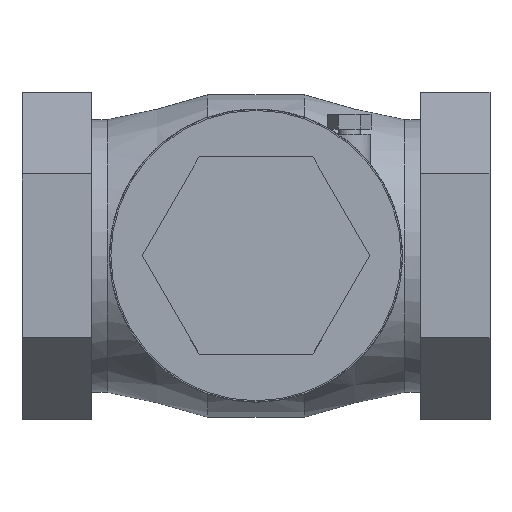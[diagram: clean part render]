
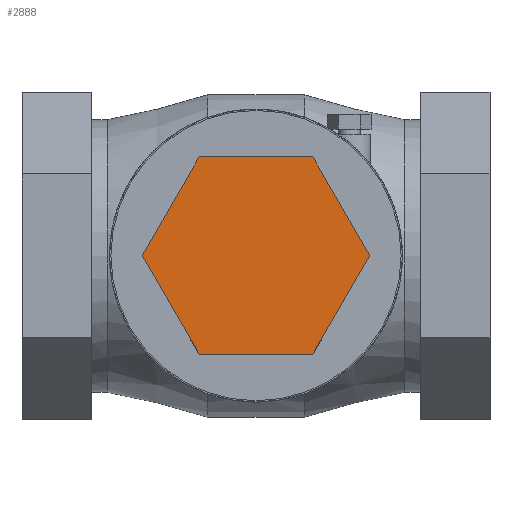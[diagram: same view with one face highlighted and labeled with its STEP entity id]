
A CAD part, top view. The second image highlights one B-rep face of the part: STEP entity #2888.
In plain terms, the highlighted planar face has unit normal (0, 0, 1).
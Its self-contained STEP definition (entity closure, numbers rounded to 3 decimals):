
#2437 = PLANE('',#2438);
#2438 = AXIS2_PLACEMENT_3D('',#2439,#2440,#2441);
#2439 = CARTESIAN_POINT('',(2.66,-1.12,2.889));
#2440 = DIRECTION('',(0.,-1.,0.));
#2441 = DIRECTION('',(1.,0.,0.));
#2465 = PLANE('',#2466);
#2466 = AXIS2_PLACEMENT_3D('',#2467,#2468,#2469);
#2467 = CARTESIAN_POINT('',(1.69,-0.56,2.889));
#2468 = DIRECTION('',(-0.866,-0.5,0.));
#2469 = DIRECTION('',(0.5,-0.866,0.));
#2493 = PLANE('',#2494);
#2494 = AXIS2_PLACEMENT_3D('',#2495,#2496,#2497);
#2495 = CARTESIAN_POINT('',(1.69,0.56,2.889));
#2496 = DIRECTION('',(-0.866,0.5,0.));
#2497 = DIRECTION('',(-0.5,-0.866,0.));
#2521 = PLANE('',#2522);
#2522 = AXIS2_PLACEMENT_3D('',#2523,#2524,#2525);
#2523 = CARTESIAN_POINT('',(2.66,1.12,2.889));
#2524 = DIRECTION('',(0.,1.,0.));
#2525 = DIRECTION('',(-1.,0.,0.));
#2549 = PLANE('',#2550);
#2550 = AXIS2_PLACEMENT_3D('',#2551,#2552,#2553);
#2551 = CARTESIAN_POINT('',(3.63,0.56,2.889));
#2552 = DIRECTION('',(0.866,0.5,0.));
#2553 = DIRECTION('',(-0.5,0.866,0.));
#2575 = PLANE('',#2576);
#2576 = AXIS2_PLACEMENT_3D('',#2577,#2578,#2579);
#2577 = CARTESIAN_POINT('',(3.63,-0.56,2.889));
#2578 = DIRECTION('',(0.866,-0.5,0.));
#2579 = DIRECTION('',(0.5,0.866,0.));
#2593 = EDGE_CURVE('',#2594,#2596,#2598,.T.);
#2594 = VERTEX_POINT('',#2595);
#2595 = CARTESIAN_POINT('',(3.307,-1.12,3.35));
#2596 = VERTEX_POINT('',#2597);
#2597 = CARTESIAN_POINT('',(2.013,-1.12,3.35));
#2598 = SURFACE_CURVE('',#2599,(#2603,#2610),.PCURVE_S1.);
#2599 = LINE('',#2600,#2601);
#2600 = CARTESIAN_POINT('',(2.013,-1.12,3.35));
#2601 = VECTOR('',#2602,1.);
#2602 = DIRECTION('',(-1.,0.,0.));
#2603 = PCURVE('',#2437,#2604);
#2604 = DEFINITIONAL_REPRESENTATION('',(#2605),#2609);
#2605 = LINE('',#2606,#2607);
#2606 = CARTESIAN_POINT('',(-0.647,0.461));
#2607 = VECTOR('',#2608,1.);
#2608 = DIRECTION('',(-1.,0.));
#2609 = ( GEOMETRIC_REPRESENTATION_CONTEXT(2) 
PARAMETRIC_REPRESENTATION_CONTEXT() REPRESENTATION_CONTEXT('2D SPACE',''
  ) );
#2610 = PCURVE('',#2611,#2616);
#2611 = PLANE('',#2612);
#2612 = AXIS2_PLACEMENT_3D('',#2613,#2614,#2615);
#2613 = CARTESIAN_POINT('',(2.66,0.,3.35));
#2614 = DIRECTION('',(0.,0.,1.));
#2615 = DIRECTION('',(1.,0.,-0.));
#2616 = DEFINITIONAL_REPRESENTATION('',(#2617),#2621);
#2617 = LINE('',#2618,#2619);
#2618 = CARTESIAN_POINT('',(-0.647,-1.12));
#2619 = VECTOR('',#2620,1.);
#2620 = DIRECTION('',(-1.,0.));
#2621 = ( GEOMETRIC_REPRESENTATION_CONTEXT(2) 
PARAMETRIC_REPRESENTATION_CONTEXT() REPRESENTATION_CONTEXT('2D SPACE',''
  ) );
#2669 = EDGE_CURVE('',#2596,#2670,#2672,.T.);
#2670 = VERTEX_POINT('',#2671);
#2671 = CARTESIAN_POINT('',(1.367,0.,3.35));
#2672 = SURFACE_CURVE('',#2673,(#2677,#2684),.PCURVE_S1.);
#2673 = LINE('',#2674,#2675);
#2674 = CARTESIAN_POINT('',(1.367,0.,3.35));
#2675 = VECTOR('',#2676,1.);
#2676 = DIRECTION('',(-0.5,0.866,0.));
#2677 = PCURVE('',#2465,#2678);
#2678 = DEFINITIONAL_REPRESENTATION('',(#2679),#2683);
#2679 = LINE('',#2680,#2681);
#2680 = CARTESIAN_POINT('',(-0.647,0.461));
#2681 = VECTOR('',#2682,1.);
#2682 = DIRECTION('',(-1.,0.));
#2683 = ( GEOMETRIC_REPRESENTATION_CONTEXT(2) 
PARAMETRIC_REPRESENTATION_CONTEXT() REPRESENTATION_CONTEXT('2D SPACE',''
  ) );
#2684 = PCURVE('',#2611,#2685);
#2685 = DEFINITIONAL_REPRESENTATION('',(#2686),#2690);
#2686 = LINE('',#2687,#2688);
#2687 = CARTESIAN_POINT('',(-1.293,0.));
#2688 = VECTOR('',#2689,1.);
#2689 = DIRECTION('',(-0.5,0.866));
#2690 = ( GEOMETRIC_REPRESENTATION_CONTEXT(2) 
PARAMETRIC_REPRESENTATION_CONTEXT() REPRESENTATION_CONTEXT('2D SPACE',''
  ) );
#2718 = EDGE_CURVE('',#2670,#2719,#2721,.T.);
#2719 = VERTEX_POINT('',#2720);
#2720 = CARTESIAN_POINT('',(2.013,1.12,3.35));
#2721 = SURFACE_CURVE('',#2722,(#2726,#2733),.PCURVE_S1.);
#2722 = LINE('',#2723,#2724);
#2723 = CARTESIAN_POINT('',(2.013,1.12,3.35));
#2724 = VECTOR('',#2725,1.);
#2725 = DIRECTION('',(0.5,0.866,0.));
#2726 = PCURVE('',#2493,#2727);
#2727 = DEFINITIONAL_REPRESENTATION('',(#2728),#2732);
#2728 = LINE('',#2729,#2730);
#2729 = CARTESIAN_POINT('',(-0.647,0.461));
#2730 = VECTOR('',#2731,1.);
#2731 = DIRECTION('',(-1.,0.));
#2732 = ( GEOMETRIC_REPRESENTATION_CONTEXT(2) 
PARAMETRIC_REPRESENTATION_CONTEXT() REPRESENTATION_CONTEXT('2D SPACE',''
  ) );
#2733 = PCURVE('',#2611,#2734);
#2734 = DEFINITIONAL_REPRESENTATION('',(#2735),#2739);
#2735 = LINE('',#2736,#2737);
#2736 = CARTESIAN_POINT('',(-0.647,1.12));
#2737 = VECTOR('',#2738,1.);
#2738 = DIRECTION('',(0.5,0.866));
#2739 = ( GEOMETRIC_REPRESENTATION_CONTEXT(2) 
PARAMETRIC_REPRESENTATION_CONTEXT() REPRESENTATION_CONTEXT('2D SPACE',''
  ) );
#2767 = EDGE_CURVE('',#2719,#2768,#2770,.T.);
#2768 = VERTEX_POINT('',#2769);
#2769 = CARTESIAN_POINT('',(3.307,1.12,3.35));
#2770 = SURFACE_CURVE('',#2771,(#2775,#2782),.PCURVE_S1.);
#2771 = LINE('',#2772,#2773);
#2772 = CARTESIAN_POINT('',(3.307,1.12,3.35));
#2773 = VECTOR('',#2774,1.);
#2774 = DIRECTION('',(1.,0.,0.));
#2775 = PCURVE('',#2521,#2776);
#2776 = DEFINITIONAL_REPRESENTATION('',(#2777),#2781);
#2777 = LINE('',#2778,#2779);
#2778 = CARTESIAN_POINT('',(-0.647,0.461));
#2779 = VECTOR('',#2780,1.);
#2780 = DIRECTION('',(-1.,0.));
#2781 = ( GEOMETRIC_REPRESENTATION_CONTEXT(2) 
PARAMETRIC_REPRESENTATION_CONTEXT() REPRESENTATION_CONTEXT('2D SPACE',''
  ) );
#2782 = PCURVE('',#2611,#2783);
#2783 = DEFINITIONAL_REPRESENTATION('',(#2784),#2788);
#2784 = LINE('',#2785,#2786);
#2785 = CARTESIAN_POINT('',(0.647,1.12));
#2786 = VECTOR('',#2787,1.);
#2787 = DIRECTION('',(1.,0.));
#2788 = ( GEOMETRIC_REPRESENTATION_CONTEXT(2) 
PARAMETRIC_REPRESENTATION_CONTEXT() REPRESENTATION_CONTEXT('2D SPACE',''
  ) );
#2816 = EDGE_CURVE('',#2768,#2817,#2819,.T.);
#2817 = VERTEX_POINT('',#2818);
#2818 = CARTESIAN_POINT('',(3.953,0.,3.35));
#2819 = SURFACE_CURVE('',#2820,(#2824,#2831),.PCURVE_S1.);
#2820 = LINE('',#2821,#2822);
#2821 = CARTESIAN_POINT('',(3.953,0.,3.35));
#2822 = VECTOR('',#2823,1.);
#2823 = DIRECTION('',(0.5,-0.866,0.));
#2824 = PCURVE('',#2549,#2825);
#2825 = DEFINITIONAL_REPRESENTATION('',(#2826),#2830);
#2826 = LINE('',#2827,#2828);
#2827 = CARTESIAN_POINT('',(-0.647,0.461));
#2828 = VECTOR('',#2829,1.);
#2829 = DIRECTION('',(-1.,0.));
#2830 = ( GEOMETRIC_REPRESENTATION_CONTEXT(2) 
PARAMETRIC_REPRESENTATION_CONTEXT() REPRESENTATION_CONTEXT('2D SPACE',''
  ) );
#2831 = PCURVE('',#2611,#2832);
#2832 = DEFINITIONAL_REPRESENTATION('',(#2833),#2837);
#2833 = LINE('',#2834,#2835);
#2834 = CARTESIAN_POINT('',(1.293,0.));
#2835 = VECTOR('',#2836,1.);
#2836 = DIRECTION('',(0.5,-0.866));
#2837 = ( GEOMETRIC_REPRESENTATION_CONTEXT(2) 
PARAMETRIC_REPRESENTATION_CONTEXT() REPRESENTATION_CONTEXT('2D SPACE',''
  ) );
#2865 = EDGE_CURVE('',#2817,#2594,#2866,.T.);
#2866 = SURFACE_CURVE('',#2867,(#2871,#2878),.PCURVE_S1.);
#2867 = LINE('',#2868,#2869);
#2868 = CARTESIAN_POINT('',(3.307,-1.12,3.35));
#2869 = VECTOR('',#2870,1.);
#2870 = DIRECTION('',(-0.5,-0.866,0.));
#2871 = PCURVE('',#2575,#2872);
#2872 = DEFINITIONAL_REPRESENTATION('',(#2873),#2877);
#2873 = LINE('',#2874,#2875);
#2874 = CARTESIAN_POINT('',(-0.647,0.461));
#2875 = VECTOR('',#2876,1.);
#2876 = DIRECTION('',(-1.,0.));
#2877 = ( GEOMETRIC_REPRESENTATION_CONTEXT(2) 
PARAMETRIC_REPRESENTATION_CONTEXT() REPRESENTATION_CONTEXT('2D SPACE',''
  ) );
#2878 = PCURVE('',#2611,#2879);
#2879 = DEFINITIONAL_REPRESENTATION('',(#2880),#2884);
#2880 = LINE('',#2881,#2882);
#2881 = CARTESIAN_POINT('',(0.647,-1.12));
#2882 = VECTOR('',#2883,1.);
#2883 = DIRECTION('',(-0.5,-0.866));
#2884 = ( GEOMETRIC_REPRESENTATION_CONTEXT(2) 
PARAMETRIC_REPRESENTATION_CONTEXT() REPRESENTATION_CONTEXT('2D SPACE',''
  ) );
#2888 = ADVANCED_FACE('',(#2889),#2611,.T.);
#2889 = FACE_BOUND('',#2890,.T.);
#2890 = EDGE_LOOP('',(#2891,#2892,#2893,#2894,#2895,#2896));
#2891 = ORIENTED_EDGE('',*,*,#2593,.F.);
#2892 = ORIENTED_EDGE('',*,*,#2865,.F.);
#2893 = ORIENTED_EDGE('',*,*,#2816,.F.);
#2894 = ORIENTED_EDGE('',*,*,#2767,.F.);
#2895 = ORIENTED_EDGE('',*,*,#2718,.F.);
#2896 = ORIENTED_EDGE('',*,*,#2669,.F.);
